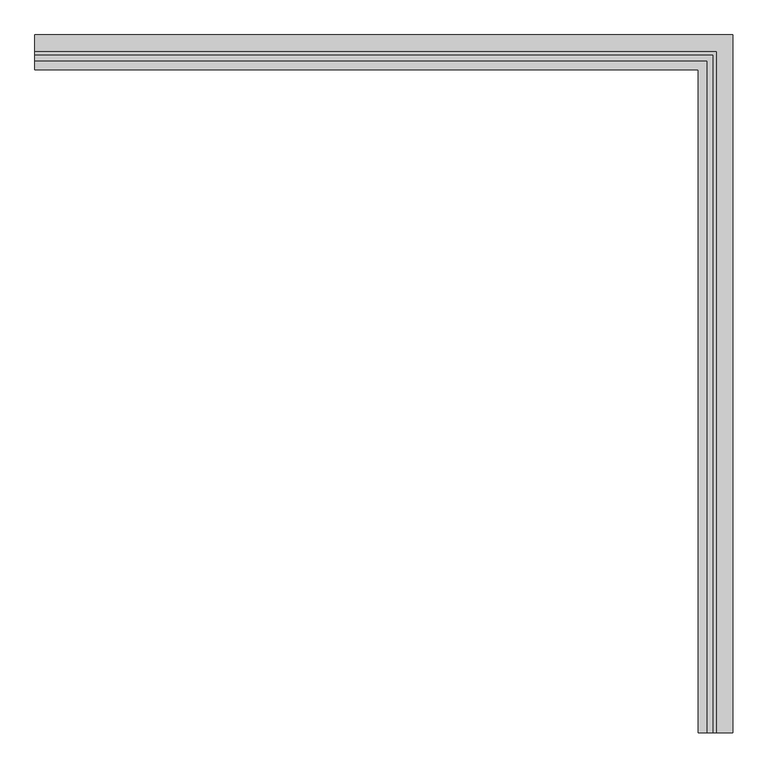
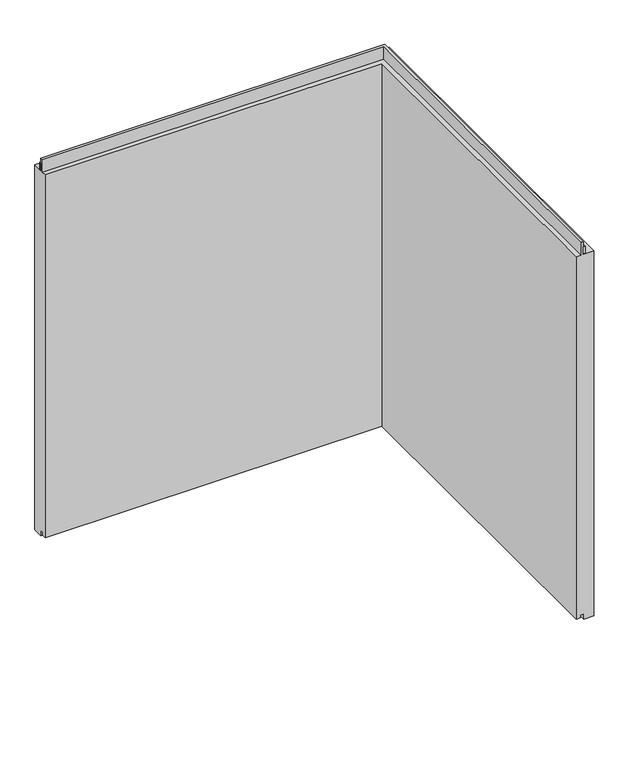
"""IFC4 building model written with IfcOpenShell, lengths in millimetres: plate geometry, Trimo_Qbiss Screen_L Corner Panel-HORIZONTAL : HR - B."""

from ifc_helpers import new_model, si_unit, frame, origin, place, context, project, spatial, polyline, outline, extrude, faceted_brep, source, transform, mapped, element, save


def plate_d31895c8(model_context):
    return source(origin(), model_context, "Body", "SolidModel", [
        extrude(outline(polyline([(-443.75, 71.0), (-443.75, 76.0), (532.25, 76.0), (532.25, -900.0), (527.25, -900.0), (527.25, 71.0), (-443.75, 71.0)])), frame((0.0, 0.0, 1090.5), z_axis=(0.0, 0.0, 1.0), x_axis=(1.0, 0.0, 0.0)), (0.0, 0.0, 1.0), 21.0),
        faceted_brep([(-443.75, 71.0, 1089.5), (-443.75, 100.0, 1089.5), (-443.75, 100.0, 0.0), (-443.75, 72.0, 0.0), (-443.75, 72.0, 15.5), (-443.75, 62.0, 15.5), (-443.75, 62.0, 7.0), (-443.75, 50.0, 7.0), (-443.75, 50.0, 1089.5), (-443.75, 63.0, 1089.5), (-443.75, 63.0, 1127.0), (-443.75, 71.0, 1127.0), (527.25, 71.0, 1089.5), (527.25, -900.0, 1089.5), (556.25, -900.0, 1089.5), (556.25, 100.0, 1089.5), (556.25, 100.0, 0.0), (556.25, -900.0, 0.0), (528.25, -900.0, 0.0), (528.25, 72.0, 0.0), (528.25, 72.0, 15.5), (528.25, -900.0, 15.5), (518.25, -900.0, 15.5), (518.25, 62.0, 15.5), (518.25, 62.0, 7.0), (518.25, -900.0, 7.0), (506.25, -900.0, 7.0), (506.25, 50.0, 7.0), (506.25, 50.0, 1089.5), (506.25, -900.0, 1089.5), (519.25, -900.0, 1089.5), (519.25, 63.0, 1089.5), (519.25, 63.0, 1127.0), (519.25, -900.0, 1127.0), (527.25, -900.0, 1127.0), (527.25, 71.0, 1127.0)], [[[0, 1, 2, 3, 4, 5, 6, 7, 8, 9, 10, 11]], [[1, 0, 12, 13, 14, 15]], [[2, 1, 15, 16]], [[3, 2, 16, 17, 18, 19]], [[4, 3, 19, 20]], [[5, 4, 20, 21, 22, 23]], [[6, 5, 23, 24]], [[7, 6, 24, 25, 26, 27]], [[8, 7, 27, 28]], [[9, 8, 28, 29, 30, 31]], [[10, 9, 31, 32]], [[11, 10, 32, 33, 34, 35]], [[0, 11, 35, 12]], [[13, 34, 33, 30, 29, 26, 25, 22, 21, 18, 17, 14]], [[16, 15, 14, 17]], [[20, 19, 18, 21]], [[24, 23, 22, 25]], [[28, 27, 26, 29]], [[32, 31, 30, 33]], [[12, 35, 34, 13]]]),
    ])


if __name__ == "__main__":
    model = new_model("IFC4")
    model_context = context("Model", 3, world=origin())
    ifc_project = project(units=[si_unit("LENGTHUNIT", "METRE", prefix="MILLI")], contexts=[model_context])
    site = spatial("IfcSite", under=ifc_project)
    building = spatial("IfcBuilding", under=site)
    placement = place(None, origin())
    plate_shape = plate_d31895c8(model_context)
    element("IfcPlate", 1, ObjectType="Trimo_Qbiss Screen_L Corner Panel-HORIZONTAL : HR - B", at=placement, inside=building, context=model_context, shape_type="MappedRepresentation", body=[
        mapped(plate_shape, transform((0.0, 0.0, 0.0), x_axis=(1.0, 0.0, 0.0), y_axis=(0.0, 1.0, 0.0), z_axis=(0.0, 0.0, 1.0))),
    ])
    save(model, "model.ifc")
